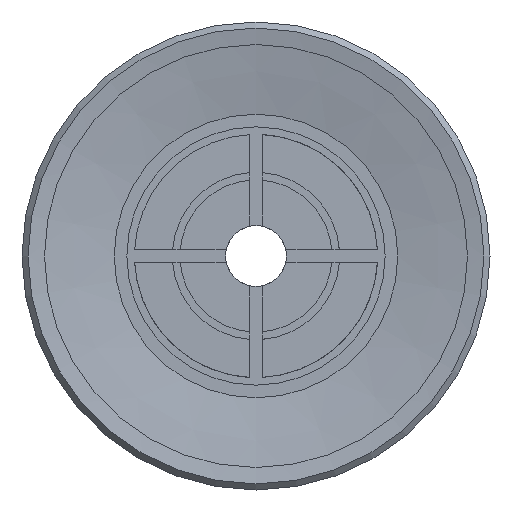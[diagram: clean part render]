
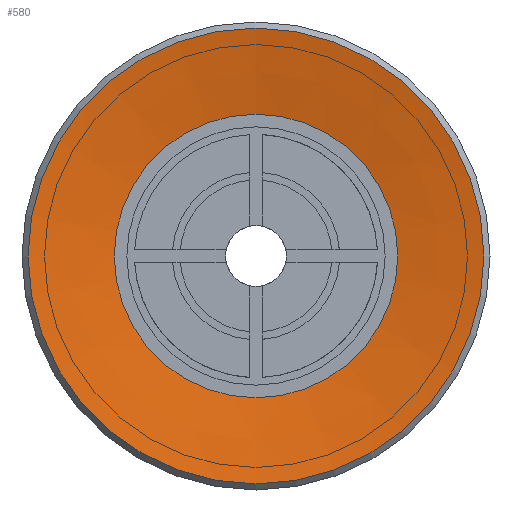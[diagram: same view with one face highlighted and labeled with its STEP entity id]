
A CAD part, front view. The second image highlights one B-rep face of the part: STEP entity #580.
In plain terms, the highlighted conical face has half-angle 80 degrees and reference radius 4.664 mm.
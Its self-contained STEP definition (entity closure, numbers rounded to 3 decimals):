
#580=ADVANCED_FACE('',(#945,#946),#947,.F.);
#945=FACE_BOUND('',#1619,.T.);
#946=FACE_OUTER_BOUND('',#1620,.T.);
#947=CONICAL_SURFACE('',#1621,4.664,1.396);
#1619=EDGE_LOOP('',(#2637));
#1620=EDGE_LOOP('',(#2638));
#1621=AXIS2_PLACEMENT_3D('',#2639,#2640,#2641);
#2637=ORIENTED_EDGE('',*,*,#3344,.F.);
#2638=ORIENTED_EDGE('',*,*,#3313,.T.);
#2639=CARTESIAN_POINT('',(0.0,0.5,0.0));
#2640=DIRECTION('',(-0.0,-1.0,0.));
#2641=DIRECTION('',(0.0,0.,-1.0));
#3313=EDGE_CURVE('',#3845,#3845,#3846,.T.);
#3344=EDGE_CURVE('',#3892,#3892,#3893,.T.);
#3845=VERTEX_POINT('',#5119);
#3846=CIRCLE('',#5120,7.5);
#3892=VERTEX_POINT('',#5217);
#3893=CIRCLE('',#5218,4.664);
#5119=CARTESIAN_POINT('',(0.0,0.,-7.5));
#5120=AXIS2_PLACEMENT_3D('',#5830,#5831,#5832);
#5217=CARTESIAN_POINT('',(0.0,0.5,-4.664));
#5218=AXIS2_PLACEMENT_3D('',#5867,#5868,#5869);
#5830=CARTESIAN_POINT('',(0.0,0.0,0.0));
#5831=DIRECTION('',(0.0,-1.0,0.));
#5832=DIRECTION('',(0.0,0.,-1.0));
#5867=CARTESIAN_POINT('',(0.0,0.5,0.0));
#5868=DIRECTION('',(0.0,-1.0,0.));
#5869=DIRECTION('',(0.0,0.,-1.0));
